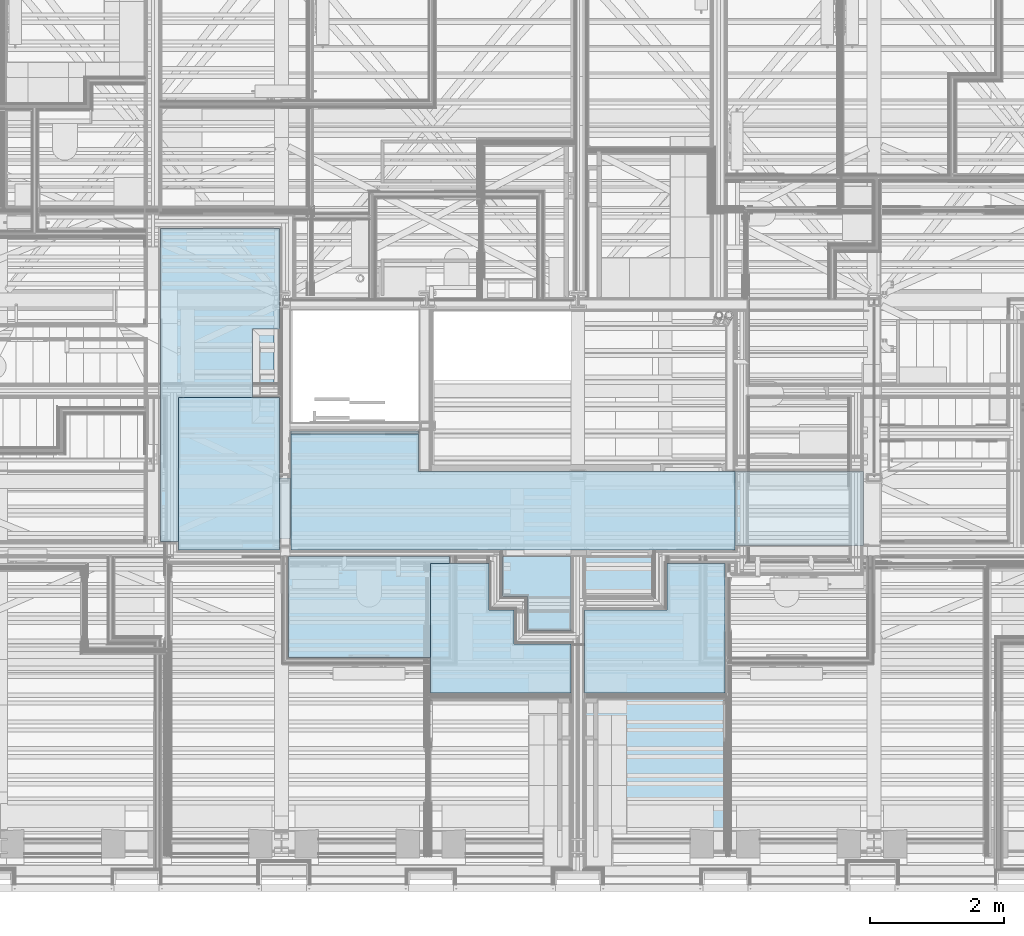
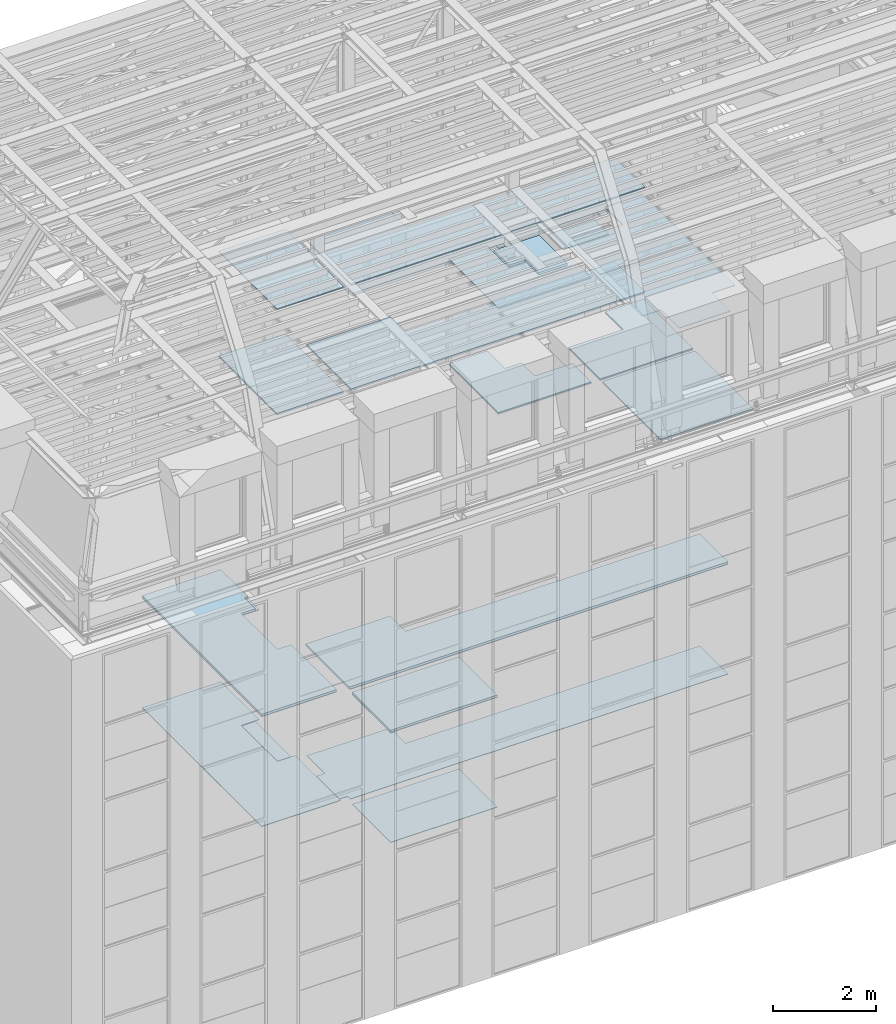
# One storey, part 85 of 183: 33 slabs.
"""IFC2X3 building model written with IfcOpenShell, lengths in metres."""

from ifc_helpers import new_model, entity, si_unit, converted_unit, derived_unit, money_unit, direction, frame, origin_with_axes, place, context, subcontext, project, spatial, faceted_brep, material, type_object, element, save


model = new_model("IFC2X3")

# Units and contexts
model_context = context("Model", 3, precision=1e-05, world=origin_with_axes(), true_north=direction((0.0, 1.0)))
body_context = subcontext(model_context, "Body", "Model", "MODEL_VIEW", scale=1.0)
ifc_project = project(units=[si_unit("LENGTHUNIT", "METRE"), si_unit("AREAUNIT", "SQUARE_METRE"), si_unit("VOLUMEUNIT", "CUBIC_METRE"), si_unit("ABSORBEDDOSEUNIT", "GRAY"), si_unit("AMOUNTOFSUBSTANCEUNIT", "MOLE"), si_unit("DOSEEQUIVALENTUNIT", "SIEVERT"), si_unit("ELECTRICCAPACITANCEUNIT", "FARAD"), si_unit("ELECTRICCHARGEUNIT", "COULOMB"), si_unit("ELECTRICCONDUCTANCEUNIT", "SIEMENS"), si_unit("ELECTRICCURRENTUNIT", "AMPERE"), si_unit("ELECTRICRESISTANCEUNIT", "OHM"), si_unit("ELECTRICVOLTAGEUNIT", "VOLT"), si_unit("ENERGYUNIT", "JOULE"), si_unit("FORCEUNIT", "NEWTON"), si_unit("FREQUENCYUNIT", "HERTZ"), si_unit("ILLUMINANCEUNIT", "LUX"), si_unit("INDUCTANCEUNIT", "HENRY"), si_unit("LUMINOUSFLUXUNIT", "LUMEN"), si_unit("LUMINOUSINTENSITYUNIT", "CANDELA"), si_unit("MAGNETICFLUXDENSITYUNIT", "TESLA"), si_unit("MAGNETICFLUXUNIT", "WEBER"), si_unit("MASSUNIT", "GRAM"), converted_unit("PLANEANGLEUNIT", "degree", entity("IfcReal", 0.0174532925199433), si_unit("PLANEANGLEUNIT", "RADIAN"), dimensions=[0, 0, 0, 0, 0, 0, 0]), si_unit("POWERUNIT", "WATT"), si_unit("PRESSUREUNIT", "PASCAL"), si_unit("RADIOACTIVITYUNIT", "BECQUEREL"), si_unit("SOLIDANGLEUNIT", "STERADIAN"), si_unit("THERMODYNAMICTEMPERATUREUNIT", "KELVIN"), si_unit("TIMEUNIT", "SECOND"), derived_unit("ACCELERATIONUNIT", [(si_unit("LENGTHUNIT", "METRE"), 1), (si_unit("TIMEUNIT", "SECOND"), -2)]), derived_unit("ANGULARVELOCITYUNIT", [(converted_unit("PLANEANGLEUNIT", "degree", entity("IfcReal", 0.0174532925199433), si_unit("PLANEANGLEUNIT", "RADIAN"), dimensions=[0, 0, 0, 0, 0, 0, 0]), 1), (si_unit("TIMEUNIT", "SECOND"), -1)]), derived_unit("CURVATUREUNIT", [(converted_unit("PLANEANGLEUNIT", "degree", entity("IfcReal", 0.0174532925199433), si_unit("PLANEANGLEUNIT", "RADIAN"), dimensions=[0, 0, 0, 0, 0, 0, 0]), 1), (si_unit("LENGTHUNIT", "METRE"), -1)]), derived_unit("DYNAMICVISCOSITYUNIT", [(si_unit("PRESSUREUNIT", "PASCAL"), 1), (si_unit("TIMEUNIT", "SECOND"), 1)]), derived_unit("HEATFLUXDENSITYUNIT", [(si_unit("POWERUNIT", "WATT"), 1), (si_unit("LENGTHUNIT", "METRE"), -2)]), derived_unit("HEATINGVALUEUNIT", [(si_unit("ENERGYUNIT", "JOULE"), 1), (si_unit("MASSUNIT", "GRAM"), -1)]), derived_unit("INTEGERCOUNTRATEUNIT", [(si_unit("TIMEUNIT", "SECOND"), -1)]), derived_unit("IONCONCENTRATIONUNIT", [(si_unit("MASSUNIT", "GRAM"), 1), (si_unit("VOLUMEUNIT", "CUBIC_METRE"), -1)]), derived_unit("ISOTHERMALMOISTURECAPACITYUNIT", [(si_unit("VOLUMEUNIT", "CUBIC_METRE"), 1), (si_unit("MASSUNIT", "GRAM"), -1)]), derived_unit("KINEMATICVISCOSITYUNIT", [(si_unit("AREAUNIT", "SQUARE_METRE"), 1), (si_unit("TIMEUNIT", "SECOND"), -1)]), derived_unit("LINEARFORCEUNIT", [(si_unit("FORCEUNIT", "NEWTON"), 1), (si_unit("LENGTHUNIT", "METRE"), -1)]), derived_unit("LINEARMOMENTUNIT", [(si_unit("FORCEUNIT", "NEWTON"), 1), (si_unit("LENGTHUNIT", "METRE"), -1)]), derived_unit("LINEARSTIFFNESSUNIT", [(si_unit("FORCEUNIT", "NEWTON"), 1), (si_unit("LENGTHUNIT", "METRE"), -1)]), derived_unit("LINEARVELOCITYUNIT", [(si_unit("LENGTHUNIT", "METRE"), 1), (si_unit("TIMEUNIT", "SECOND"), -1)]), derived_unit("LUMINOUSINTENSITYDISTRIBUTIONUNIT", [(si_unit("LUMINOUSINTENSITYUNIT", "CANDELA"), 1), (si_unit("LUMINOUSFLUXUNIT", "LUMEN"), -1)]), derived_unit("MASSDENSITYUNIT", [(si_unit("MASSUNIT", "GRAM"), 1), (si_unit("VOLUMEUNIT", "CUBIC_METRE"), -1)]), derived_unit("MASSFLOWRATEUNIT", [(si_unit("MASSUNIT", "GRAM"), 1), (si_unit("TIMEUNIT", "SECOND"), -1)]), derived_unit("MASSPERLENGTHUNIT", [(si_unit("MASSUNIT", "GRAM"), 1), (si_unit("LENGTHUNIT", "METRE"), -1)]), derived_unit("MODULUSOFELASTICITYUNIT", [(si_unit("FORCEUNIT", "NEWTON"), 1), (si_unit("AREAUNIT", "SQUARE_METRE"), -1)]), derived_unit("MODULUSOFLINEARSUBGRADEREACTIONUNIT", [(si_unit("FORCEUNIT", "NEWTON"), 1), (si_unit("LENGTHUNIT", "METRE"), -2)]), derived_unit("MODULUSOFROTATIONALSUBGRADEREACTIONUNIT", [(si_unit("FORCEUNIT", "NEWTON"), 1), (si_unit("LENGTHUNIT", "METRE"), 1)]), derived_unit("MODULUSOFSUBGRADEREACTIONUNIT", [(si_unit("FORCEUNIT", "NEWTON"), 1), (si_unit("VOLUMEUNIT", "CUBIC_METRE"), -1)]), derived_unit("MOISTUREDIFFUSIVITYUNIT", [(si_unit("VOLUMEUNIT", "CUBIC_METRE"), 1), (si_unit("TIMEUNIT", "SECOND"), -1)]), derived_unit("MOLECULARWEIGHTUNIT", [(si_unit("MASSUNIT", "GRAM"), 1), (si_unit("AMOUNTOFSUBSTANCEUNIT", "MOLE"), -1)]), derived_unit("PLANARFORCEUNIT", [(si_unit("FORCEUNIT", "NEWTON"), 1), (si_unit("LENGTHUNIT", "METRE"), -2)]), derived_unit("ROTATIONALFREQUENCYUNIT", [(si_unit("TIMEUNIT", "SECOND"), -1)]), derived_unit("ROTATIONALMASSUNIT", [(si_unit("MASSUNIT", "GRAM"), 1), (si_unit("LENGTHUNIT", "METRE"), 2)]), derived_unit("ROTATIONALSTIFFNESSUNIT", [(si_unit("FORCEUNIT", "NEWTON"), 1), (si_unit("LENGTHUNIT", "METRE"), 1), (converted_unit("PLANEANGLEUNIT", "degree", entity("IfcReal", 0.0174532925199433), si_unit("PLANEANGLEUNIT", "RADIAN"), dimensions=[0, 0, 0, 0, 0, 0, 0]), -1)]), derived_unit("SECTIONAREAINTEGRALUNIT", [(si_unit("LENGTHUNIT", "METRE"), 5)]), derived_unit("SECTIONMODULUSUNIT", [(si_unit("LENGTHUNIT", "METRE"), 3)]), derived_unit("SHEARMODULUSUNIT", [(si_unit("FORCEUNIT", "NEWTON"), 1), (si_unit("AREAUNIT", "SQUARE_METRE"), -1)]), derived_unit("SOUNDPOWERUNIT", [(si_unit("ENERGYUNIT", "JOULE"), 1), (si_unit("TIMEUNIT", "SECOND"), -1)]), derived_unit("SPECIFICHEATCAPACITYUNIT", [(si_unit("FORCEUNIT", "NEWTON"), 1), (si_unit("MASSUNIT", "GRAM"), -1), (si_unit("THERMODYNAMICTEMPERATUREUNIT", "KELVIN"), -1)]), derived_unit("TEMPERATUREGRADIENTUNIT", [(si_unit("THERMODYNAMICTEMPERATUREUNIT", "KELVIN"), 1), (si_unit("LENGTHUNIT", "METRE"), -1)]), derived_unit("THERMALADMITTANCEUNIT", [(si_unit("POWERUNIT", "WATT"), 1), (si_unit("AREAUNIT", "SQUARE_METRE"), -1), (si_unit("THERMODYNAMICTEMPERATUREUNIT", "KELVIN"), -1)]), derived_unit("THERMALCONDUCTANCEUNIT", [(si_unit("POWERUNIT", "WATT"), 1), (si_unit("LENGTHUNIT", "METRE"), -1), (si_unit("THERMODYNAMICTEMPERATUREUNIT", "KELVIN"), -1)]), derived_unit("THERMALEXPANSIONCOEFFICIENTUNIT", [(si_unit("THERMODYNAMICTEMPERATUREUNIT", "KELVIN"), -1)]), derived_unit("THERMALRESISTANCEUNIT", [(si_unit("AREAUNIT", "SQUARE_METRE"), 1), (si_unit("POWERUNIT", "WATT"), -1)]), derived_unit("THERMALTRANSMITTANCEUNIT", [(si_unit("POWERUNIT", "WATT"), 1), (si_unit("AREAUNIT", "SQUARE_METRE"), -1), (si_unit("THERMODYNAMICTEMPERATUREUNIT", "KELVIN"), -1)]), derived_unit("TORQUEUNIT", [(si_unit("FORCEUNIT", "NEWTON"), 1), (si_unit("LENGTHUNIT", "METRE"), 1)]), derived_unit("VAPORPERMEABILITYUNIT", [(si_unit("MASSUNIT", "GRAM"), 1), (si_unit("TIMEUNIT", "SECOND"), -1)]), derived_unit("VOLUMETRICFLOWRATEUNIT", [(si_unit("VOLUMEUNIT", "CUBIC_METRE"), 1), (si_unit("TIMEUNIT", "SECOND"), -1)]), derived_unit("WARPINGCONSTANTUNIT", [(si_unit("LENGTHUNIT", "METRE"), 6)]), derived_unit("WARPINGMOMENTUNIT", [(si_unit("FORCEUNIT", "NEWTON"), 1), (si_unit("LENGTHUNIT", "METRE"), 2)]), money_unit("GBP")], contexts=[model_context])

# Site, building, storey
site_placement = place(None, origin_with_axes())
site = spatial("IfcSite", under=ifc_project, at=site_placement, Name="Site", CompositionType="ELEMENT")
building_placement = place(site_placement, origin_with_axes())
building = spatial("IfcBuilding", under=site, at=building_placement, Name="Building01", CompositionType="ELEMENT")
storey_placement = place(building_placement, frame((0.0, 0.0, 5.15), z_axis=(0.0, 0.0, 1.0), x_axis=(1.0, 0.0, 0.0)))
storey = spatial("IfcBuildingStorey", under=building, at=storey_placement, Name="1F", CompositionType="ELEMENT", Elevation=5.15)

# Slabs
ifc_material_1 = material(Name="A_BSUK_CeilingSoffitFinishes_Suspended")
slab_type_1 = type_object("IfcSlabType", Name="A-FloorsSlabs A_BSUK_Slabs", PredefinedType="FLOOR")
placement = place(storey_placement, frame((0.0, 0.0, -5.15), z_axis=(0.0, 0.0, 1.0), x_axis=(1.0, 0.0, 0.0)))
element("IfcSlab", 1, at=placement, inside=storey, type_object=slab_type_1, material=ifc_material_1, Name="A-FloorsSlabs A_BSUK_Slabs", ObjectType="CompoundSlabLeaf", context=body_context, shape_type="Brep", body=[
    faceted_brep([(7.289669, 5.205, 7.765), (7.289669, 5.205, 7.78), (7.289669, 9.862704, 7.78), (7.289669, 9.862704, 7.765), (8.975, 5.205, 7.765), (8.975, 5.205, 7.78), (8.975, 6.968405, 7.765), (8.975, 6.968405, 7.78), (8.658, 6.968405, 7.765), (8.658, 6.968405, 7.78), (8.658, 8.372405, 7.765), (8.658, 8.372405, 7.78), (9.06, 8.372405, 7.765), (9.06, 8.372405, 7.78), (9.06, 8.665, 7.765), (9.06, 8.665, 7.78), (9.06, 9.862704, 7.765), (9.06, 9.862704, 7.78)], [[[0, 1, 2, 3]], [[4, 5, 1, 0]], [[6, 7, 5, 4]], [[8, 9, 7, 6]], [[10, 11, 9, 8]], [[12, 13, 11, 10]], [[14, 15, 13, 12]], [[16, 17, 15, 14]], [[3, 2, 17, 16]], [[1, 5, 7, 9, 11, 13, 15, 17, 2]], [[3, 16, 14, 12, 10, 8, 6, 4, 0]]]),
])
element("IfcSlab", 2, at=placement, inside=storey, type_object=slab_type_1, material=ifc_material_1, Name="A-FloorsSlabs A_BSUK_Slabs", ObjectType="CompoundSlabLeaf", context=body_context, shape_type="Brep", body=[
    faceted_brep([(9.25, 5.15, 7.765), (9.25, 5.15, 7.78), (9.25, 6.85, 7.78), (9.25, 6.85, 7.765), (17.75, 5.15, 7.765), (17.75, 5.15, 7.78), (17.75, 6.25, 7.765), (17.75, 6.25, 7.78), (15.679803, 6.25, 7.765), (15.679803, 6.25, 7.78), (11.13, 6.25, 7.765), (11.13, 6.25, 7.78), (11.13, 6.85, 7.765), (11.13, 6.85, 7.78)], [[[0, 1, 2, 3]], [[4, 5, 1, 0]], [[6, 7, 5, 4]], [[8, 9, 7, 6]], [[10, 11, 9, 8]], [[12, 13, 11, 10]], [[3, 2, 13, 12]], [[1, 5, 7, 9, 11, 13, 2]], [[3, 12, 10, 8, 6, 4, 0]]]),
])
ifc_material_2 = material(Name="A_BSUK_ExpandedPolystyreneBoards")
element("IfcSlab", 3, at=placement, inside=storey, type_object=slab_type_1, material=ifc_material_2, Name="A-FloorsSlabs A_BSUK_Slabs", ObjectType="CompoundSlabLeaf", context=body_context, shape_type="Brep", body=[
    faceted_brep([(7.289669, 5.205, 5.15), (7.289669, 5.205, 5.153), (7.289669, 9.862704, 5.153), (7.289669, 9.862704, 5.15), (8.975, 5.205, 5.15), (8.975, 5.205, 5.153), (8.975, 6.607081, 5.15), (8.975, 6.607081, 5.153), (8.975, 8.372405, 5.15), (8.975, 8.372405, 5.153), (8.975, 8.8, 5.15), (8.975, 8.8, 5.153), (9.06, 8.8, 5.15), (9.06, 8.8, 5.153), (9.06, 9.862704, 5.15), (9.06, 9.862704, 5.153)], [[[0, 1, 2, 3]], [[4, 5, 1, 0]], [[6, 7, 5, 4]], [[8, 9, 7, 6]], [[10, 11, 9, 8]], [[12, 13, 11, 10]], [[14, 15, 13, 12]], [[3, 2, 15, 14]], [[1, 5, 7, 9, 11, 13, 15, 2]], [[3, 14, 12, 10, 8, 6, 4, 0]]]),
])
ifc_material_3 = material(Name="A_BSUK_Ceramic_FloorTiles")
element("IfcSlab", 4, at=placement, inside=storey, type_object=slab_type_1, material=ifc_material_3, Name="A-FloorsSlabs A_BSUK_Slabs", ObjectType="CompoundSlabLeaf", context=body_context, shape_type="Brep", body=[
    faceted_brep([(9.192536, 4.98, 5.153), (9.192536, 4.98, 5.165), (11.592536, 4.98, 5.165), (11.592536, 4.98, 5.153), (9.192536, 3.48, 5.153), (9.192536, 3.48, 5.165), (11.592536, 3.48, 5.153), (11.592536, 3.48, 5.165), (11.592536, 4.259428, 5.153), (11.592536, 4.259428, 5.165)], [[[0, 1, 2, 3]], [[4, 5, 1, 0]], [[6, 7, 5, 4]], [[8, 9, 7, 6]], [[3, 2, 9, 8]], [[1, 5, 7, 9, 2]], [[3, 8, 6, 4, 0]]]),
])
ifc_material_4 = material(Name="A_BSUK_Carpet-Pile")
element("IfcSlab", 5, at=placement, inside=storey, type_object=slab_type_1, material=ifc_material_4, Name="A-FloorsSlabs A_BSUK_Slabs", ObjectType="CompoundSlabLeaf", context=body_context, shape_type="Brep", body=[
    faceted_brep([(7.289669, 9.862704, 5.153), (7.289669, 9.862704, 5.165), (9.06, 9.862704, 5.165), (9.06, 9.862704, 5.153), (7.289669, 5.205, 5.153), (7.289669, 5.205, 5.165), (9.06, 5.205, 5.153), (9.06, 5.205, 5.165), (9.06, 6.968405, 5.153), (9.06, 6.968405, 5.165), (8.658, 6.968405, 5.153), (8.658, 6.968405, 5.165), (8.658, 7.610847, 5.153), (8.658, 7.610847, 5.165), (8.658, 8.372405, 5.153), (8.658, 8.372405, 5.165), (9.06, 8.372405, 5.153), (9.06, 8.372405, 5.165)], [[[0, 1, 2, 3]], [[4, 5, 1, 0]], [[6, 7, 5, 4]], [[8, 9, 7, 6]], [[10, 11, 9, 8]], [[12, 13, 11, 10]], [[14, 15, 13, 12]], [[16, 17, 15, 14]], [[3, 2, 17, 16]], [[1, 5, 7, 9, 11, 13, 15, 17, 2]], [[3, 16, 14, 12, 10, 8, 6, 4, 0]]]),
])
element("IfcSlab", 6, at=placement, inside=storey, type_object=slab_type_1, material=ifc_material_4, Name="A-FloorsSlabs A_BSUK_Slabs", ObjectType="CompoundSlabLeaf", context=body_context, shape_type="Brep", body=[
    faceted_brep([(9.06, 5.25, 5.153), (9.06, 5.25, 5.165), (9.06, 6.15, 5.165), (9.06, 6.15, 5.153), (9.25, 5.25, 5.153), (9.25, 5.25, 5.165), (9.25, 5.15, 5.153), (9.25, 5.15, 5.165), (17.75, 5.15, 5.153), (17.75, 5.15, 5.165), (17.75, 6.25, 5.153), (17.75, 6.25, 5.165), (14.658, 6.25, 5.153), (14.658, 6.25, 5.165), (11.13, 6.25, 5.153), (11.13, 6.25, 5.165), (11.13, 6.85, 5.153), (11.13, 6.85, 5.165), (9.25, 6.85, 5.153), (9.25, 6.85, 5.165), (9.25, 6.15, 5.153), (9.25, 6.15, 5.165)], [[[0, 1, 2, 3]], [[4, 5, 1, 0]], [[6, 7, 5, 4]], [[8, 9, 7, 6]], [[10, 11, 9, 8]], [[12, 13, 11, 10]], [[14, 15, 13, 12]], [[16, 17, 15, 14]], [[18, 19, 17, 16]], [[20, 21, 19, 18]], [[3, 2, 21, 20]], [[1, 5, 7, 9, 11, 13, 15, 17, 19, 21, 2]], [[3, 20, 18, 16, 14, 12, 10, 8, 6, 4, 0]]]),
])
element("IfcSlab", 7, at=placement, inside=storey, type_object=slab_type_1, material=ifc_material_1, Name="A-FloorsSlabs A_BSUK_Slabs", ObjectType="CompoundSlabLeaf", context=body_context, shape_type="Brep", body=[
    faceted_brep([(9.192536, 4.98, 7.765), (9.192536, 4.98, 7.78), (11.592536, 4.98, 7.78), (11.592536, 4.98, 7.765), (9.192536, 3.48, 7.765), (9.192536, 3.48, 7.78), (11.592536, 3.48, 7.765), (11.592536, 3.48, 7.78), (11.592536, 4.259428, 7.765), (11.592536, 4.259428, 7.78)], [[[0, 1, 2, 3]], [[4, 5, 1, 0]], [[6, 7, 5, 4]], [[8, 9, 7, 6]], [[3, 2, 9, 8]], [[1, 5, 7, 9, 2]], [[3, 8, 6, 4, 0]]]),
])
element("IfcSlab", 8, at=placement, inside=storey, type_object=slab_type_1, material=ifc_material_1, Name="A-FloorsSlabs A_BSUK_Slabs", ObjectType="CompoundSlabLeaf", context=body_context, shape_type="Brep", body=[
    faceted_brep([(7.56, 5.08, 17.423), (7.56, 5.08, 17.438), (7.56, 7.349939, 17.438), (7.56, 7.349939, 17.423), (9.06, 5.08, 17.423), (9.06, 5.08, 17.438), (9.06, 7.349939, 17.423), (9.06, 7.349939, 17.438)], [[[0, 1, 2, 3]], [[4, 5, 1, 0]], [[6, 7, 5, 4]], [[3, 2, 7, 6]], [[1, 5, 7, 2]], [[3, 6, 4, 0]]]),
])
element("IfcSlab", 9, at=placement, inside=storey, type_object=slab_type_1, material=ifc_material_1, Name="A-FloorsSlabs A_BSUK_Slabs", ObjectType="CompoundSlabLeaf", context=body_context, shape_type="Brep", body=[
    faceted_brep([(9.23, 5.08, 17.423), (9.23, 5.08, 17.438), (9.23, 6.807, 17.438), (9.23, 6.807, 17.423), (15.83844, 5.08, 17.423), (15.83844, 5.08, 17.438), (15.83844, 6.25, 17.423), (15.83844, 6.25, 17.438), (11.13, 6.25, 17.423), (11.13, 6.25, 17.438), (11.13, 6.807, 17.423), (11.13, 6.807, 17.438)], [[[0, 1, 2, 3]], [[4, 5, 1, 0]], [[6, 7, 5, 4]], [[8, 9, 7, 6]], [[10, 11, 9, 8]], [[3, 2, 11, 10]], [[1, 5, 7, 9, 11, 2]], [[3, 10, 8, 6, 4, 0]]]),
])
element("IfcSlab", 10, at=placement, inside=storey, type_object=slab_type_1, material=ifc_material_1, Name="A-FloorsSlabs A_BSUK_Slabs", ObjectType="CompoundSlabLeaf", context=body_context, shape_type="Brep", body=[
    faceted_brep([(13.4, 2.949761, 17.423), (13.4, 2.949761, 17.438), (11.31, 2.949761, 17.438), (11.31, 2.949761, 17.423), (13.4, 3.68, 17.423), (13.4, 3.68, 17.438), (12.55, 3.68, 17.423), (12.55, 3.68, 17.438), (12.55, 4.189428, 17.423), (12.55, 4.189428, 17.438), (12.175, 4.189428, 17.423), (12.175, 4.189428, 17.438), (12.175, 4.88, 17.423), (12.175, 4.88, 17.438), (11.31, 4.88, 17.423), (11.31, 4.88, 17.438)], [[[0, 1, 2, 3]], [[4, 5, 1, 0]], [[6, 7, 5, 4]], [[8, 9, 7, 6]], [[10, 11, 9, 8]], [[12, 13, 11, 10]], [[14, 15, 13, 12]], [[3, 2, 15, 14]], [[1, 5, 7, 9, 11, 13, 15, 2]], [[3, 14, 12, 10, 8, 6, 4, 0]]]),
])
element("IfcSlab", 11, at=placement, inside=storey, type_object=slab_type_1, material=ifc_material_1, Name="A-FloorsSlabs A_BSUK_Slabs", ObjectType="CompoundSlabLeaf", context=body_context, shape_type="Brep", body=[
    faceted_brep([(13.6, 2.949761, 17.423), (13.6, 2.949761, 17.438), (13.6, 4.189428, 17.438), (13.6, 4.189428, 17.423), (15.69, 2.949761, 17.423), (15.69, 2.949761, 17.438), (15.69, 4.88, 17.423), (15.69, 4.88, 17.438), (14.825, 4.88, 17.423), (14.825, 4.88, 17.438), (14.825, 4.189428, 17.423), (14.825, 4.189428, 17.438)], [[[0, 1, 2, 3]], [[4, 5, 1, 0]], [[6, 7, 5, 4]], [[8, 9, 7, 6]], [[10, 11, 9, 8]], [[3, 2, 11, 10]], [[1, 5, 7, 9, 11, 2]], [[3, 10, 8, 6, 4, 0]]]),
])
element("IfcSlab", 12, at=placement, inside=storey, type_object=slab_type_1, material=ifc_material_2, Name="A-FloorsSlabs A_BSUK_Slabs", ObjectType="CompoundSlabLeaf", context=body_context, shape_type="Brep", body=[
    faceted_brep([(7.56, 5.08, 14.92), (7.56, 5.08, 14.952), (7.56, 7.349939, 14.952), (7.56, 7.349939, 14.92), (9.06, 5.08, 14.92), (9.06, 5.08, 14.952), (9.06, 7.349939, 14.92), (9.06, 7.349939, 14.952)], [[[0, 1, 2, 3]], [[4, 5, 1, 0]], [[6, 7, 5, 4]], [[3, 2, 7, 6]], [[1, 5, 7, 2]], [[3, 6, 4, 0]]]),
])
element("IfcSlab", 13, at=placement, inside=storey, type_object=slab_type_1, material=ifc_material_2, Name="A-FloorsSlabs A_BSUK_Slabs", ObjectType="CompoundSlabLeaf", context=body_context, shape_type="Brep", body=[
    faceted_brep([(9.23, 5.08, 14.92), (9.23, 5.08, 14.952), (9.23, 6.85, 14.952), (9.23, 6.85, 14.92), (15.83844, 5.08, 14.92), (15.83844, 5.08, 14.952), (15.83844, 6.25, 14.92), (15.83844, 6.25, 14.952), (11.13, 6.25, 14.92), (11.13, 6.25, 14.952), (11.13, 6.85, 14.92), (11.13, 6.85, 14.952)], [[[0, 1, 2, 3]], [[4, 5, 1, 0]], [[6, 7, 5, 4]], [[8, 9, 7, 6]], [[10, 11, 9, 8]], [[3, 2, 11, 10]], [[1, 5, 7, 9, 11, 2]], [[3, 10, 8, 6, 4, 0]]]),
])
element("IfcSlab", 14, at=placement, inside=storey, type_object=slab_type_1, material=ifc_material_2, Name="A-FloorsSlabs A_BSUK_Slabs", ObjectType="CompoundSlabLeaf", context=body_context, shape_type="Brep", body=[
    faceted_brep([(13.4, 2.949761, 14.92), (13.4, 2.949761, 14.952), (11.31, 2.949761, 14.952), (11.31, 2.949761, 14.92), (13.4, 3.68, 14.92), (13.4, 3.68, 14.952), (12.55, 3.68, 14.92), (12.55, 3.68, 14.952), (12.55, 4.189428, 14.92), (12.55, 4.189428, 14.952), (12.175, 4.189428, 14.92), (12.175, 4.189428, 14.952), (12.175, 4.88, 14.92), (12.175, 4.88, 14.952), (11.31, 4.88, 14.92), (11.31, 4.88, 14.952)], [[[0, 1, 2, 3]], [[4, 5, 1, 0]], [[6, 7, 5, 4]], [[8, 9, 7, 6]], [[10, 11, 9, 8]], [[12, 13, 11, 10]], [[14, 15, 13, 12]], [[3, 2, 15, 14]], [[1, 5, 7, 9, 11, 13, 15, 2]], [[3, 14, 12, 10, 8, 6, 4, 0]]]),
])
element("IfcSlab", 15, at=placement, inside=storey, type_object=slab_type_1, material=ifc_material_2, Name="A-FloorsSlabs A_BSUK_Slabs", ObjectType="CompoundSlabLeaf", context=body_context, shape_type="Brep", body=[
    faceted_brep([(13.6, 2.949761, 14.92), (13.6, 2.949761, 14.952), (13.6, 4.189428, 14.952), (13.6, 4.189428, 14.92), (15.69, 2.949761, 14.92), (15.69, 2.949761, 14.952), (15.69, 4.88, 14.92), (15.69, 4.88, 14.952), (14.825, 4.88, 14.92), (14.825, 4.88, 14.952), (14.825, 4.189428, 14.92), (14.825, 4.189428, 14.952)], [[[0, 1, 2, 3]], [[4, 5, 1, 0]], [[6, 7, 5, 4]], [[8, 9, 7, 6]], [[10, 11, 9, 8]], [[3, 2, 11, 10]], [[1, 5, 7, 9, 11, 2]], [[3, 10, 8, 6, 4, 0]]]),
])
element("IfcSlab", 16, at=placement, inside=storey, type_object=slab_type_1, material=ifc_material_2, Name="A-FloorsSlabs A_BSUK_Slabs", ObjectType="CompoundSlabLeaf", context=body_context, shape_type="Brep", body=[
    faceted_brep([(13.6, 0.6038, 14.92), (13.6, 0.6038, 14.952), (13.6, 2.869761, 14.952), (13.6, 2.869761, 14.92), (14.020024, 0.6038, 14.92), (14.020024, 0.6038, 14.952), (15.170024, 0.6038, 14.92), (15.170024, 0.6038, 14.952), (15.69, 0.6038, 14.92), (15.69, 0.6038, 14.952), (15.69, 2.869761, 14.92), (15.69, 2.869761, 14.952)], [[[0, 1, 2, 3]], [[4, 5, 1, 0]], [[6, 7, 5, 4]], [[8, 9, 7, 6]], [[10, 11, 9, 8]], [[3, 2, 11, 10]], [[1, 5, 7, 9, 11, 2]], [[3, 10, 8, 6, 4, 0]]]),
])
element("IfcSlab", 17, at=placement, inside=storey, type_object=slab_type_1, material=ifc_material_1, Name="A-FloorsSlabs A_BSUK_Slabs", ObjectType="CompoundSlabLeaf", context=body_context, shape_type="Brep", body=[
    faceted_brep([(7.56, 5.08, 17.438), (7.56, 5.08, 17.453), (7.56, 7.349939, 17.453), (7.56, 7.349939, 17.438), (9.06, 5.08, 17.438), (9.06, 5.08, 17.453), (9.06, 7.349939, 17.438), (9.06, 7.349939, 17.453)], [[[0, 1, 2, 3]], [[4, 5, 1, 0]], [[6, 7, 5, 4]], [[3, 2, 7, 6]], [[1, 5, 7, 2]], [[3, 6, 4, 0]]]),
])
element("IfcSlab", 18, at=placement, inside=storey, type_object=slab_type_1, material=ifc_material_1, Name="A-FloorsSlabs A_BSUK_Slabs", ObjectType="CompoundSlabLeaf", context=body_context, shape_type="Brep", body=[
    faceted_brep([(9.23, 5.08, 17.438), (9.23, 5.08, 17.453), (9.23, 6.807, 17.453), (9.23, 6.807, 17.438), (15.83844, 5.08, 17.438), (15.83844, 5.08, 17.453), (15.83844, 6.25, 17.438), (15.83844, 6.25, 17.453), (11.13, 6.25, 17.438), (11.13, 6.25, 17.453), (11.13, 6.807, 17.438), (11.13, 6.807, 17.453)], [[[0, 1, 2, 3]], [[4, 5, 1, 0]], [[6, 7, 5, 4]], [[8, 9, 7, 6]], [[10, 11, 9, 8]], [[3, 2, 11, 10]], [[1, 5, 7, 9, 11, 2]], [[3, 10, 8, 6, 4, 0]]]),
])
element("IfcSlab", 19, at=placement, inside=storey, type_object=slab_type_1, material=ifc_material_1, Name="A-FloorsSlabs A_BSUK_Slabs", ObjectType="CompoundSlabLeaf", context=body_context, shape_type="Brep", body=[
    faceted_brep([(13.4, 2.949761, 17.438), (13.4, 2.949761, 17.453), (11.31, 2.949761, 17.453), (11.31, 2.949761, 17.438), (13.4, 3.68, 17.438), (13.4, 3.68, 17.453), (12.55, 3.68, 17.438), (12.55, 3.68, 17.453), (12.55, 4.189428, 17.438), (12.55, 4.189428, 17.453), (12.175, 4.189428, 17.438), (12.175, 4.189428, 17.453), (12.175, 4.88, 17.438), (12.175, 4.88, 17.453), (11.31, 4.88, 17.438), (11.31, 4.88, 17.453)], [[[0, 1, 2, 3]], [[4, 5, 1, 0]], [[6, 7, 5, 4]], [[8, 9, 7, 6]], [[10, 11, 9, 8]], [[12, 13, 11, 10]], [[14, 15, 13, 12]], [[3, 2, 15, 14]], [[1, 5, 7, 9, 11, 13, 15, 2]], [[3, 14, 12, 10, 8, 6, 4, 0]]]),
])
element("IfcSlab", 20, at=placement, inside=storey, type_object=slab_type_1, material=ifc_material_1, Name="A-FloorsSlabs A_BSUK_Slabs", ObjectType="CompoundSlabLeaf", context=body_context, shape_type="Brep", body=[
    faceted_brep([(13.6, 2.949761, 17.438), (13.6, 2.949761, 17.453), (13.6, 4.189428, 17.453), (13.6, 4.189428, 17.438), (15.69, 2.949761, 17.438), (15.69, 2.949761, 17.453), (15.69, 4.88, 17.438), (15.69, 4.88, 17.453), (14.825, 4.88, 17.438), (14.825, 4.88, 17.453), (14.825, 4.189428, 17.438), (14.825, 4.189428, 17.453)], [[[0, 1, 2, 3]], [[4, 5, 1, 0]], [[6, 7, 5, 4]], [[8, 9, 7, 6]], [[10, 11, 9, 8]], [[3, 2, 11, 10]], [[1, 5, 7, 9, 11, 2]], [[3, 10, 8, 6, 4, 0]]]),
])
element("IfcSlab", 21, at=placement, inside=storey, type_object=slab_type_1, material=ifc_material_1, Name="A-FloorsSlabs A_BSUK_Slabs", ObjectType="CompoundSlabLeaf", context=body_context, shape_type="Brep", body=[
    faceted_brep([(13.6, 1.313291, 17.438), (13.6, 1.313291, 17.453), (13.6, 2.869761, 17.453), (13.6, 2.869761, 17.438), (14.020024, 1.313291, 17.438), (14.020024, 1.313291, 17.453), (14.020024, 0.599939, 17.438), (14.020024, 0.599939, 17.453), (15.170024, 0.599939, 17.438), (15.170024, 0.599939, 17.453), (15.170024, 1.312402, 17.438), (15.170024, 1.312402, 17.453), (15.69, 1.312402, 17.438), (15.69, 1.312402, 17.453), (15.69, 2.869761, 17.438), (15.69, 2.869761, 17.453)], [[[0, 1, 2, 3]], [[4, 5, 1, 0]], [[6, 7, 5, 4]], [[8, 9, 7, 6]], [[10, 11, 9, 8]], [[12, 13, 11, 10]], [[14, 15, 13, 12]], [[3, 2, 15, 14]], [[1, 5, 7, 9, 11, 13, 15, 2]], [[3, 14, 12, 10, 8, 6, 4, 0]]]),
])
element("IfcSlab", 22, at=placement, inside=storey, type_object=slab_type_1, material=ifc_material_1, Name="A-FloorsSlabs A_BSUK_Slabs", ObjectType="CompoundSlabLeaf", context=body_context, shape_type="Brep", body=[
    faceted_brep([(9.23, 5.08, 17.158), (9.23, 5.08, 17.173), (9.23, 6.807, 17.173), (9.23, 6.807, 17.158), (15.83844, 5.08, 17.158), (15.83844, 5.08, 17.173), (15.83844, 6.25, 17.158), (15.83844, 6.25, 17.173), (11.13, 6.25, 17.158), (11.13, 6.25, 17.173), (11.13, 6.807, 17.158), (11.13, 6.807, 17.173)], [[[0, 1, 2, 3]], [[4, 5, 1, 0]], [[6, 7, 5, 4]], [[8, 9, 7, 6]], [[10, 11, 9, 8]], [[3, 2, 11, 10]], [[1, 5, 7, 9, 11, 2]], [[3, 10, 8, 6, 4, 0]]]),
])
element("IfcSlab", 23, at=placement, inside=storey, type_object=slab_type_1, material=ifc_material_1, Name="A-FloorsSlabs A_BSUK_Slabs", ObjectType="CompoundSlabLeaf", context=body_context, shape_type="Brep", body=[
    faceted_brep([(13.4, 3.88, 17.158), (13.4, 3.88, 17.173), (12.75, 3.88, 17.173), (12.75, 3.88, 17.158), (13.4, 4.98, 17.158), (13.4, 4.98, 17.173), (12.375, 4.98, 17.158), (12.375, 4.98, 17.173), (12.375, 4.389428, 17.158), (12.375, 4.389428, 17.173), (12.75, 4.389428, 17.158), (12.75, 4.389428, 17.173)], [[[0, 1, 2, 3]], [[4, 5, 1, 0]], [[6, 7, 5, 4]], [[8, 9, 7, 6]], [[10, 11, 9, 8]], [[3, 2, 11, 10]], [[1, 5, 7, 9, 11, 2]], [[3, 10, 8, 6, 4, 0]]]),
])
element("IfcSlab", 24, at=placement, inside=storey, type_object=slab_type_1, material=ifc_material_1, Name="A-FloorsSlabs A_BSUK_Slabs", ObjectType="CompoundSlabLeaf", context=body_context, shape_type="Brep", body=[
    faceted_brep([(14.625, 4.389428, 17.158), (14.625, 4.389428, 17.173), (13.975, 4.389428, 17.173), (13.975, 4.389428, 17.158), (14.625, 4.98, 17.158), (14.625, 4.98, 17.173), (13.6, 4.98, 17.158), (13.6, 4.98, 17.173), (13.6, 4.389428, 17.158), (13.6, 4.389428, 17.173)], [[[0, 1, 2, 3]], [[4, 5, 1, 0]], [[6, 7, 5, 4]], [[8, 9, 7, 6]], [[3, 2, 9, 8]], [[1, 5, 7, 9, 2]], [[3, 8, 6, 4, 0]]]),
])
slab_type_2 = type_object("IfcSlabType", Name="A-FloorsSlabs A_BSUK_ExpandedPolystyreneBoards", PredefinedType="FLOOR")
element("IfcSlab", 25, at=placement, inside=storey, type_object=slab_type_2, material=ifc_material_2, Name="A-FloorsSlabs A_BSUK_ExpandedPolystyreneBoards", ObjectType="CompoundSlabLeaf", context=body_context, shape_type="Brep", body=[
    faceted_brep([(9.192536, 4.98, 7.78), (9.192536, 4.98, 7.83), (11.592536, 4.98, 7.83), (11.592536, 4.98, 7.78), (9.192536, 3.48, 7.78), (9.192536, 3.48, 7.83), (11.592536, 3.48, 7.78), (11.592536, 3.48, 7.83), (11.592536, 4.259428, 7.78), (11.592536, 4.259428, 7.83)], [[[0, 1, 2, 3]], [[4, 5, 1, 0]], [[6, 7, 5, 4]], [[8, 9, 7, 6]], [[3, 2, 9, 8]], [[1, 5, 7, 9, 2]], [[3, 8, 6, 4, 0]]]),
])
element("IfcSlab", 26, at=placement, inside=storey, type_object=slab_type_2, material=ifc_material_2, Name="A-FloorsSlabs A_BSUK_ExpandedPolystyreneBoards", ObjectType="CompoundSlabLeaf", context=body_context, shape_type="Brep", body=[
    faceted_brep([(7.289669, 5.205, 7.78), (7.289669, 5.205, 7.83), (7.289669, 9.862704, 7.83), (7.289669, 9.862704, 7.78), (8.975, 5.205, 7.78), (8.975, 5.205, 7.83), (8.975, 6.968405, 7.78), (8.975, 6.968405, 7.83), (8.658, 6.968405, 7.78), (8.658, 6.968405, 7.83), (8.658, 8.372405, 7.78), (8.658, 8.372405, 7.83), (8.975, 8.372405, 7.78), (8.975, 8.372405, 7.83), (8.975, 8.8, 7.78), (8.975, 8.8, 7.83), (9.06, 8.8, 7.78), (9.06, 8.8, 7.83), (9.06, 9.862704, 7.78), (9.06, 9.862704, 7.83)], [[[0, 1, 2, 3]], [[4, 5, 1, 0]], [[6, 7, 5, 4]], [[8, 9, 7, 6]], [[10, 11, 9, 8]], [[12, 13, 11, 10]], [[14, 15, 13, 12]], [[16, 17, 15, 14]], [[18, 19, 17, 16]], [[3, 2, 19, 18]], [[1, 5, 7, 9, 11, 13, 15, 17, 19, 2]], [[3, 18, 16, 14, 12, 10, 8, 6, 4, 0]]]),
])
element("IfcSlab", 27, at=placement, inside=storey, type_object=slab_type_2, material=ifc_material_2, Name="A-FloorsSlabs A_BSUK_ExpandedPolystyreneBoards", ObjectType="CompoundSlabLeaf", context=body_context, shape_type="Brep", body=[
    faceted_brep([(9.225, 5.15, 7.78), (9.225, 5.15, 7.83), (9.225, 6.85, 7.83), (9.225, 6.85, 7.78), (17.75, 5.15, 7.78), (17.75, 5.15, 7.83), (17.75, 6.25, 7.78), (17.75, 6.25, 7.83), (15.679803, 6.25, 7.78), (15.679803, 6.25, 7.83), (11.13, 6.25, 7.78), (11.13, 6.25, 7.83), (11.13, 6.85, 7.78), (11.13, 6.85, 7.83)], [[[0, 1, 2, 3]], [[4, 5, 1, 0]], [[6, 7, 5, 4]], [[8, 9, 7, 6]], [[10, 11, 9, 8]], [[12, 13, 11, 10]], [[3, 2, 13, 12]], [[1, 5, 7, 9, 11, 13, 2]], [[3, 12, 10, 8, 6, 4, 0]]]),
])
element("IfcSlab", 28, at=placement, inside=storey, type_object=slab_type_2, material=ifc_material_2, Name="A-FloorsSlabs A_BSUK_ExpandedPolystyreneBoards", ObjectType="CompoundSlabLeaf", context=body_context, shape_type="Brep", body=[
    faceted_brep([(9.23, 5.08, 17.173), (9.23, 5.08, 17.223), (9.23, 6.807, 17.223), (9.23, 6.807, 17.173), (15.83844, 5.08, 17.173), (15.83844, 5.08, 17.223), (15.83844, 6.25, 17.173), (15.83844, 6.25, 17.223), (11.13, 6.25, 17.173), (11.13, 6.25, 17.223), (11.13, 6.807, 17.173), (11.13, 6.807, 17.223)], [[[0, 1, 2, 3]], [[4, 5, 1, 0]], [[6, 7, 5, 4]], [[8, 9, 7, 6]], [[10, 11, 9, 8]], [[3, 2, 11, 10]], [[1, 5, 7, 9, 11, 2]], [[3, 10, 8, 6, 4, 0]]]),
])
element("IfcSlab", 29, at=placement, inside=storey, type_object=slab_type_2, material=ifc_material_2, Name="A-FloorsSlabs A_BSUK_ExpandedPolystyreneBoards", ObjectType="CompoundSlabLeaf", context=body_context, shape_type="Brep", body=[
    faceted_brep([(13.4, 3.88, 17.173), (13.4, 3.88, 17.223), (12.75, 3.88, 17.223), (12.75, 3.88, 17.173), (13.4, 4.98, 17.173), (13.4, 4.98, 17.223), (12.375, 4.98, 17.173), (12.375, 4.98, 17.223), (12.375, 4.389428, 17.173), (12.375, 4.389428, 17.223), (12.75, 4.389428, 17.173), (12.75, 4.389428, 17.223)], [[[0, 1, 2, 3]], [[4, 5, 1, 0]], [[6, 7, 5, 4]], [[8, 9, 7, 6]], [[10, 11, 9, 8]], [[3, 2, 11, 10]], [[1, 5, 7, 9, 11, 2]], [[3, 10, 8, 6, 4, 0]]]),
])
slab_type_3 = type_object("IfcSlabType", Name="A-Finishes A_BSUK_Carpet-Pile", PredefinedType="FLOOR")
element("IfcSlab", 30, at=placement, inside=storey, type_object=slab_type_3, material=ifc_material_4, Name="A-Finishes A_BSUK_Carpet-Pile", ObjectType="CompoundSlabLeaf", context=body_context, shape_type="Brep", body=[
    faceted_brep([(7.56, 5.08, 14.952), (7.56, 5.08, 14.964), (7.56, 7.349939, 14.964), (7.56, 7.349939, 14.952), (9.06, 5.08, 14.952), (9.06, 5.08, 14.964), (9.06, 7.349939, 14.952), (9.06, 7.349939, 14.964)], [[[0, 1, 2, 3]], [[4, 5, 1, 0]], [[6, 7, 5, 4]], [[3, 2, 7, 6]], [[1, 5, 7, 2]], [[3, 6, 4, 0]]]),
])
element("IfcSlab", 31, at=placement, inside=storey, type_object=slab_type_3, material=ifc_material_4, Name="A-Finishes A_BSUK_Carpet-Pile", ObjectType="CompoundSlabLeaf", context=body_context, shape_type="Brep", body=[
    faceted_brep([(9.23, 5.08, 14.952), (9.23, 5.08, 14.964), (9.23, 6.807, 14.964), (9.23, 6.807, 14.952), (15.83844, 5.08, 14.952), (15.83844, 5.08, 14.964), (15.83844, 6.25, 14.952), (15.83844, 6.25, 14.964), (11.13, 6.25, 14.952), (11.13, 6.25, 14.964), (11.13, 6.807, 14.952), (11.13, 6.807, 14.964)], [[[0, 1, 2, 3]], [[4, 5, 1, 0]], [[6, 7, 5, 4]], [[8, 9, 7, 6]], [[10, 11, 9, 8]], [[3, 2, 11, 10]], [[1, 5, 7, 9, 11, 2]], [[3, 10, 8, 6, 4, 0]]]),
])
element("IfcSlab", 32, at=placement, inside=storey, type_object=slab_type_3, material=ifc_material_4, Name="A-Finishes A_BSUK_Carpet-Pile", ObjectType="CompoundSlabLeaf", context=body_context, shape_type="Brep", body=[
    faceted_brep([(13.4, 2.949761, 14.952), (13.4, 2.949761, 14.964), (11.31, 2.949761, 14.964), (11.31, 2.949761, 14.952), (13.4, 3.68, 14.952), (13.4, 3.68, 14.964), (12.55, 3.68, 14.952), (12.55, 3.68, 14.964), (12.55, 4.189428, 14.952), (12.55, 4.189428, 14.964), (12.175, 4.189428, 14.952), (12.175, 4.189428, 14.964), (12.175, 4.88, 14.952), (12.175, 4.88, 14.964), (11.31, 4.88, 14.952), (11.31, 4.88, 14.964)], [[[0, 1, 2, 3]], [[4, 5, 1, 0]], [[6, 7, 5, 4]], [[8, 9, 7, 6]], [[10, 11, 9, 8]], [[12, 13, 11, 10]], [[14, 15, 13, 12]], [[3, 2, 15, 14]], [[1, 5, 7, 9, 11, 13, 15, 2]], [[3, 14, 12, 10, 8, 6, 4, 0]]]),
])
element("IfcSlab", 33, at=placement, inside=storey, type_object=slab_type_3, material=ifc_material_4, Name="A-Finishes A_BSUK_Carpet-Pile", ObjectType="CompoundSlabLeaf", context=body_context, shape_type="Brep", body=[
    faceted_brep([(13.6, 2.949761, 14.952), (13.6, 2.949761, 14.964), (13.6, 4.189428, 14.964), (13.6, 4.189428, 14.952), (15.69, 2.949761, 14.952), (15.69, 2.949761, 14.964), (15.69, 4.88, 14.952), (15.69, 4.88, 14.964), (14.825, 4.88, 14.952), (14.825, 4.88, 14.964), (14.825, 4.189428, 14.952), (14.825, 4.189428, 14.964)], [[[0, 1, 2, 3]], [[4, 5, 1, 0]], [[6, 7, 5, 4]], [[8, 9, 7, 6]], [[10, 11, 9, 8]], [[3, 2, 11, 10]], [[1, 5, 7, 9, 11, 2]], [[3, 10, 8, 6, 4, 0]]]),
])

save(model, "model.ifc")
